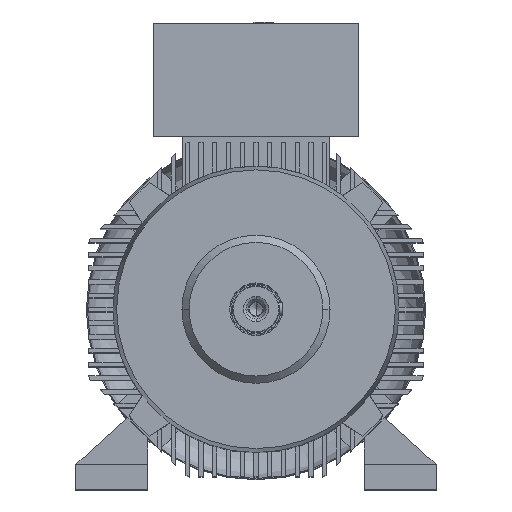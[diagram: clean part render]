
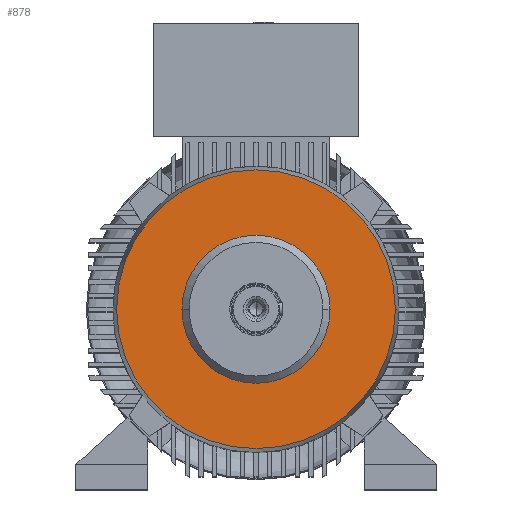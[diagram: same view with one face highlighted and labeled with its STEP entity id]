
A CAD part, top view. The second image highlights one B-rep face of the part: STEP entity #878.
In plain terms, the highlighted planar face has unit normal (0, 0, 1).
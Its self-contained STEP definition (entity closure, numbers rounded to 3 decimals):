
#145 = CARTESIAN_POINT ( 'NONE',  ( 0., 0., 330.5 ) ) ;
#283 = CARTESIAN_POINT ( 'NONE',  ( 0., 0., 330.5 ) ) ;
#878 = ADVANCED_FACE ( 'NONE', ( #5135, #3869 ), #17154, .F. ) ;
#1254 = EDGE_LOOP ( 'NONE', ( #20172, #7829 ) ) ;
#1319 = DIRECTION ( 'NONE',  ( 0., 0., -1. ) ) ;
#1908 = VERTEX_POINT ( 'NONE', #20045 ) ;
#2067 = AXIS2_PLACEMENT_3D ( 'NONE', #23106, #13332, #21382 ) ;
#2550 = ORIENTED_EDGE ( 'NONE', *, *, #8366, .T. ) ;
#3275 = DIRECTION ( 'NONE',  ( 1., 0., 0. ) ) ;
#3296 = VERTEX_POINT ( 'NONE', #8045 ) ;
#3697 = EDGE_CURVE ( 'NONE', #22308, #7534, #14022, .T. ) ;
#3869 = FACE_OUTER_BOUND ( 'NONE', #1254, .T. ) ;
#5029 = EDGE_LOOP ( 'NONE', ( #2550, #23918 ) ) ;
#5135 = FACE_BOUND ( 'NONE', #5029, .T. ) ;
#6881 = CARTESIAN_POINT ( 'NONE',  ( -102.8, 0., 330.5 ) ) ;
#7534 = VERTEX_POINT ( 'NONE', #16333 ) ;
#7829 = ORIENTED_EDGE ( 'NONE', *, *, #12772, .T. ) ;
#8045 = CARTESIAN_POINT ( 'NONE',  ( 193.484, 0., 330.5 ) ) ;
#8366 = EDGE_CURVE ( 'NONE', #7534, #22308, #23973, .T. ) ;
#9673 = AXIS2_PLACEMENT_3D ( 'NONE', #145, #23932, #22184 ) ;
#10370 = DIRECTION ( 'NONE',  ( 0., 0., 1. ) ) ;
#10527 = EDGE_CURVE ( 'NONE', #3296, #1908, #22921, .T. ) ;
#12772 = EDGE_CURVE ( 'NONE', #1908, #3296, #14055, .T. ) ;
#13234 = CARTESIAN_POINT ( 'NONE',  ( 0., 0., 330.5 ) ) ;
#13332 = DIRECTION ( 'NONE',  ( 0., 0., -1. ) ) ;
#14022 = CIRCLE ( 'NONE', #20916, 102.8 ) ;
#14055 = CIRCLE ( 'NONE', #15576, 193.484 ) ;
#14205 = DIRECTION ( 'NONE',  ( 1., 0., 0. ) ) ;
#15576 = AXIS2_PLACEMENT_3D ( 'NONE', #283, #10370, #14205 ) ;
#16333 = CARTESIAN_POINT ( 'NONE',  ( 102.8, 0., 330.5 ) ) ;
#16568 = AXIS2_PLACEMENT_3D ( 'NONE', #25227, #1319, #25303 ) ;
#17154 = PLANE ( 'NONE',  #16568 ) ;
#19270 = DIRECTION ( 'NONE',  ( 0., 0., -1. ) ) ;
#20045 = CARTESIAN_POINT ( 'NONE',  ( -193.484, 0., 330.5 ) ) ;
#20172 = ORIENTED_EDGE ( 'NONE', *, *, #10527, .T. ) ;
#20916 = AXIS2_PLACEMENT_3D ( 'NONE', #13234, #19270, #3275 ) ;
#21382 = DIRECTION ( 'NONE',  ( 1., 0., 0. ) ) ;
#22184 = DIRECTION ( 'NONE',  ( 1., 0., 0. ) ) ;
#22308 = VERTEX_POINT ( 'NONE', #6881 ) ;
#22921 = CIRCLE ( 'NONE', #9673, 193.484 ) ;
#23106 = CARTESIAN_POINT ( 'NONE',  ( 0., 0., 330.5 ) ) ;
#23918 = ORIENTED_EDGE ( 'NONE', *, *, #3697, .T. ) ;
#23932 = DIRECTION ( 'NONE',  ( 0., 0., 1. ) ) ;
#23973 = CIRCLE ( 'NONE', #2067, 102.8 ) ;
#25227 = CARTESIAN_POINT ( 'NONE',  ( 0., 193.484, 330.5 ) ) ;
#25303 = DIRECTION ( 'NONE',  ( 1., 0., 0. ) ) ;
